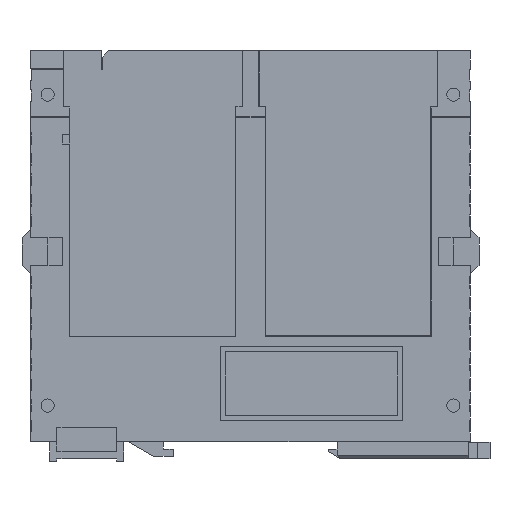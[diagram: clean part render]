
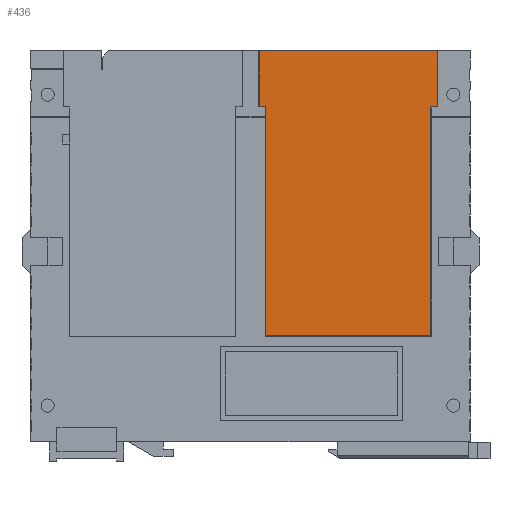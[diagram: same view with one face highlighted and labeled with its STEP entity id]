
A CAD part, left-side view. The second image highlights one B-rep face of the part: STEP entity #436.
In plain terms, the highlighted planar face has unit normal (-1, 0, 0).
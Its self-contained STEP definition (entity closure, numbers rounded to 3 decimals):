
#264 = VERTEX_POINT ( 'NONE', #7438 ) ;
#329 = VERTEX_POINT ( 'NONE', #7582 ) ;
#344 = VERTEX_POINT ( 'NONE', #7663 ) ;
#354 = VERTEX_POINT ( 'NONE', #7668 ) ;
#358 = EDGE_CURVE ( 'NONE', #354, #264, #7697, .T. ) ;
#359 = EDGE_CURVE ( 'NONE', #264, #344, #7626, .T. ) ;
#383 = EDGE_CURVE ( 'NONE', #434, #329, #7900, .T. ) ;
#398 = EDGE_LOOP ( 'NONE', ( #439, #426, #438, #403, #437, #412, #414, #416 ) ) ;
#403 = ORIENTED_EDGE ( 'NONE', *, *, #359, .F. ) ;
#412 = ORIENTED_EDGE ( 'NONE', *, *, #449, .F. ) ;
#414 = ORIENTED_EDGE ( 'NONE', *, *, #383, .F. ) ;
#416 = ORIENTED_EDGE ( 'NONE', *, *, #430, .F. ) ;
#426 = ORIENTED_EDGE ( 'NONE', *, *, #458, .F. ) ;
#430 = EDGE_CURVE ( 'NONE', #457, #434, #7875, .T. ) ;
#434 = VERTEX_POINT ( 'NONE', #7878 ) ;
#436 = ADVANCED_FACE ( 'NONE', ( #7876 ), #7883, .T. ) ;
#437 = ORIENTED_EDGE ( 'NONE', *, *, #358, .F. ) ;
#438 = ORIENTED_EDGE ( 'NONE', *, *, #468, .F. ) ;
#439 = ORIENTED_EDGE ( 'NONE', *, *, #455, .F. ) ;
#449 = EDGE_CURVE ( 'NONE', #329, #354, #7798, .T. ) ;
#451 = VERTEX_POINT ( 'NONE', #7799 ) ;
#455 = EDGE_CURVE ( 'NONE', #451, #457, #7720, .T. ) ;
#457 = VERTEX_POINT ( 'NONE', #7790 ) ;
#458 = EDGE_CURVE ( 'NONE', #473, #451, #7710, .T. ) ;
#468 = EDGE_CURVE ( 'NONE', #344, #473, #7916, .T. ) ;
#473 = VERTEX_POINT ( 'NONE', #7709 ) ;
#7438 = CARTESIAN_POINT ( 'NONE',  ( -17., 16.9, -58.3 ) ) ;
#7582 = CARTESIAN_POINT ( 'NONE',  ( -17., -16.9, -11.4 ) ) ;
#7623 = DIRECTION ( 'NONE',  ( 0., 0., 1. ) ) ;
#7624 = VECTOR ( 'NONE', #7623, 1000. ) ;
#7625 = CARTESIAN_POINT ( 'NONE',  ( -17., 16.9, -58.3 ) ) ;
#7626 = LINE ( 'NONE', #7625, #7624 ) ;
#7627 = DIRECTION ( 'NONE',  ( 0., 1., 0. ) ) ;
#7628 = VECTOR ( 'NONE', #7627, 1000. ) ;
#7663 = CARTESIAN_POINT ( 'NONE',  ( -17., 16.9, -11.4 ) ) ;
#7668 = CARTESIAN_POINT ( 'NONE',  ( -17., -16.9, -58.3 ) ) ;
#7696 = CARTESIAN_POINT ( 'NONE',  ( -17., 16.9, -58.3 ) ) ;
#7697 = LINE ( 'NONE', #7696, #7628 ) ;
#7705 = DIRECTION ( 'NONE',  ( 0., 0., 1. ) ) ;
#7706 = VECTOR ( 'NONE', #7705, 1000. ) ;
#7707 = CARTESIAN_POINT ( 'NONE',  ( -17., 18.2, -11.4 ) ) ;
#7709 = CARTESIAN_POINT ( 'NONE',  ( -17., 18.2, -11.4 ) ) ;
#7710 = LINE ( 'NONE', #7707, #7706 ) ;
#7716 = DIRECTION ( 'NONE',  ( 0., -1., 0. ) ) ;
#7717 = VECTOR ( 'NONE', #7716, 1000. ) ;
#7718 = CARTESIAN_POINT ( 'NONE',  ( -17., 18.2, 0. ) ) ;
#7720 = LINE ( 'NONE', #7718, #7717 ) ;
#7782 = DIRECTION ( 'NONE',  ( 0., 0., 1. ) ) ;
#7790 = CARTESIAN_POINT ( 'NONE',  ( -17., -18.2, 0. ) ) ;
#7795 = DIRECTION ( 'NONE',  ( 0., 0., -1. ) ) ;
#7796 = VECTOR ( 'NONE', #7795, 1000. ) ;
#7797 = CARTESIAN_POINT ( 'NONE',  ( -17., -16.9, -58.3 ) ) ;
#7798 = LINE ( 'NONE', #7797, #7796 ) ;
#7799 = CARTESIAN_POINT ( 'NONE',  ( -17., 18.2, 0. ) ) ;
#7809 = DIRECTION ( 'NONE',  ( 0., 1., 0. ) ) ;
#7810 = VECTOR ( 'NONE', #7809, 1000. ) ;
#7872 = DIRECTION ( 'NONE',  ( 0., 0., -1. ) ) ;
#7873 = VECTOR ( 'NONE', #7872, 1000. ) ;
#7874 = CARTESIAN_POINT ( 'NONE',  ( -17., -18.2, -11.4 ) ) ;
#7875 = LINE ( 'NONE', #7874, #7873 ) ;
#7876 = FACE_OUTER_BOUND ( 'NONE', #398, .T. ) ;
#7878 = CARTESIAN_POINT ( 'NONE',  ( -17., -18.2, -11.4 ) ) ;
#7880 = AXIS2_PLACEMENT_3D ( 'NONE', #7887, #7886, #7782 ) ;
#7883 = PLANE ( 'NONE',  #7880 ) ;
#7886 = DIRECTION ( 'NONE',  ( -1., 0., 0. ) ) ;
#7887 = CARTESIAN_POINT ( 'NONE',  ( -17., -18.2, 0. ) ) ;
#7899 = CARTESIAN_POINT ( 'NONE',  ( -17., -16.9, -11.4 ) ) ;
#7900 = LINE ( 'NONE', #7899, #7810 ) ;
#7913 = DIRECTION ( 'NONE',  ( 0., 1., 0. ) ) ;
#7914 = VECTOR ( 'NONE', #7913, 1000. ) ;
#7915 = CARTESIAN_POINT ( 'NONE',  ( -17., 16.9, -11.4 ) ) ;
#7916 = LINE ( 'NONE', #7915, #7914 ) ;
